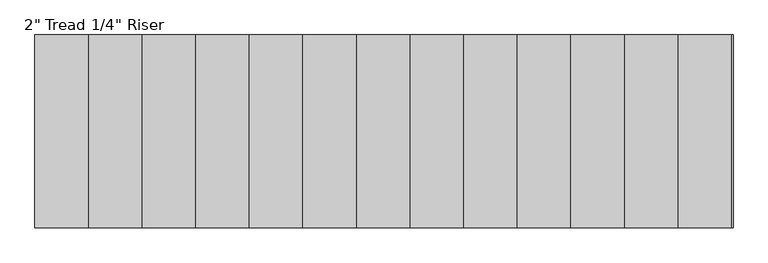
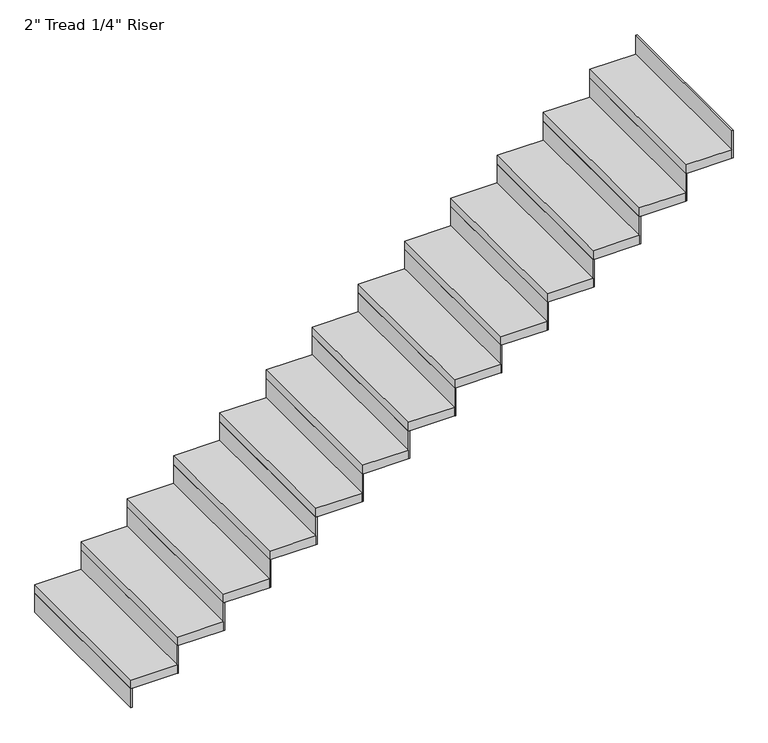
"""IFC4 building model written with IfcOpenShell, lengths in millimetres: stair flight geometry."""

from ifc_helpers import new_model, si_unit, frame, origin, origin_with_axes, place, context, project, spatial, polyline, outline, extrude, source, transform, mapped, element, save


def stair_flight_bc33b561(model_context):
    return source(origin(), model_context, "Body", "SweptSolid", [
        extrude(outline(polyline([(159992.4182615, -35451.4428514), (159986.0682615, -35451.4428514), (159986.0682615, -34537.0428514), (159992.4182615, -34537.0428514), (159992.4182615, -35451.4428514)])), origin_with_axes(), (0.0, 0.0, 1.0), 109.6210526),
        extrude(outline(polyline([(160240.0682615, -34537.0428514), (160240.0682615, -35451.4428514), (159986.0682615, -35451.4428514), (159986.0682615, -34537.0428514), (160240.0682615, -34537.0428514)])), frame((0.0, 0.0, 109.6210526), z_axis=(0.0, 0.0, 1.0), x_axis=(1.0, 0.0, 0.0)), (0.0, 0.0, 1.0), 50.8),
        extrude(outline(polyline([(160246.4182615, -35451.4428514), (160240.0682615, -35451.4428514), (160240.0682615, -34537.0428514), (160246.4182615, -34537.0428514), (160246.4182615, -35451.4428514)])), frame((0.0, 0.0, 109.6210526), z_axis=(0.0, 0.0, 1.0), x_axis=(1.0, 0.0, 0.0)), (0.0, 0.0, 1.0), 160.4210526),
        extrude(outline(polyline([(160494.0682615, -34537.0428514), (160494.0682615, -35451.4428514), (160240.0682615, -35451.4428514), (160240.0682615, -34537.0428514), (160494.0682615, -34537.0428514)])), frame((0.0, 0.0, 270.0421053), z_axis=(0.0, 0.0, 1.0), x_axis=(1.0, 0.0, 0.0)), (0.0, 0.0, 1.0), 50.8),
        extrude(outline(polyline([(160500.4182615, -35451.4428514), (160494.0682615, -35451.4428514), (160494.0682615, -34537.0428514), (160500.4182615, -34537.0428514), (160500.4182615, -35451.4428514)])), frame((0.0, 0.0, 270.0421053), z_axis=(0.0, 0.0, 1.0), x_axis=(1.0, 0.0, 0.0)), (0.0, 0.0, 1.0), 160.4210526),
        extrude(outline(polyline([(160748.0682615, -34537.0428514), (160748.0682615, -35451.4428514), (160494.0682615, -35451.4428514), (160494.0682615, -34537.0428514), (160748.0682615, -34537.0428514)])), frame((0.0, 0.0, 430.4631579), z_axis=(0.0, 0.0, 1.0), x_axis=(1.0, 0.0, 0.0)), (0.0, 0.0, 1.0), 50.8),
        extrude(outline(polyline([(160754.4182615, -35451.4428514), (160748.0682615, -35451.4428514), (160748.0682615, -34537.0428514), (160754.4182615, -34537.0428514), (160754.4182615, -35451.4428514)])), frame((0.0, 0.0, 430.4631579), z_axis=(0.0, 0.0, 1.0), x_axis=(1.0, 0.0, 0.0)), (0.0, 0.0, 1.0), 160.4210526),
        extrude(outline(polyline([(161002.0682615, -34537.0428514), (161002.0682615, -35451.4428514), (160748.0682615, -35451.4428514), (160748.0682615, -34537.0428514), (161002.0682615, -34537.0428514)])), frame((0.0, 0.0, 590.8842105), z_axis=(0.0, 0.0, 1.0), x_axis=(1.0, 0.0, 0.0)), (0.0, 0.0, 1.0), 50.8),
        extrude(outline(polyline([(161008.4182615, -35451.4428514), (161002.0682615, -35451.4428514), (161002.0682615, -34537.0428514), (161008.4182615, -34537.0428514), (161008.4182615, -35451.4428514)])), frame((0.0, 0.0, 590.8842105), z_axis=(0.0, 0.0, 1.0), x_axis=(1.0, 0.0, 0.0)), (0.0, 0.0, 1.0), 160.4210526),
        extrude(outline(polyline([(161256.0682615, -34537.0428514), (161256.0682615, -35451.4428514), (161002.0682615, -35451.4428514), (161002.0682615, -34537.0428514), (161256.0682615, -34537.0428514)])), frame((0.0, 0.0, 751.3052632), z_axis=(0.0, 0.0, 1.0), x_axis=(1.0, 0.0, 0.0)), (0.0, 0.0, 1.0), 50.8),
        extrude(outline(polyline([(161262.4182615, -35451.4428514), (161256.0682615, -35451.4428514), (161256.0682615, -34537.0428514), (161262.4182615, -34537.0428514), (161262.4182615, -35451.4428514)])), frame((0.0, 0.0, 751.3052632), z_axis=(0.0, 0.0, 1.0), x_axis=(1.0, 0.0, 0.0)), (0.0, 0.0, 1.0), 160.4210526),
        extrude(outline(polyline([(161510.0682615, -34537.0428514), (161510.0682615, -35451.4428514), (161256.0682615, -35451.4428514), (161256.0682615, -34537.0428514), (161510.0682615, -34537.0428514)])), frame((0.0, 0.0, 911.7263158), z_axis=(0.0, 0.0, 1.0), x_axis=(1.0, 0.0, 0.0)), (0.0, 0.0, 1.0), 50.8),
        extrude(outline(polyline([(161516.4182615, -35451.4428514), (161510.0682615, -35451.4428514), (161510.0682615, -34537.0428514), (161516.4182615, -34537.0428514), (161516.4182615, -35451.4428514)])), frame((0.0, 0.0, 911.7263158), z_axis=(0.0, 0.0, 1.0), x_axis=(1.0, 0.0, 0.0)), (0.0, 0.0, 1.0), 160.4210526),
        extrude(outline(polyline([(161764.0682615, -34537.0428514), (161764.0682615, -35451.4428514), (161510.0682615, -35451.4428514), (161510.0682615, -34537.0428514), (161764.0682615, -34537.0428514)])), frame((0.0, 0.0, 1072.1473684), z_axis=(0.0, 0.0, 1.0), x_axis=(1.0, 0.0, 0.0)), (0.0, 0.0, 1.0), 50.8),
        extrude(outline(polyline([(161770.4182615, -35451.4428514), (161764.0682615, -35451.4428514), (161764.0682615, -34537.0428514), (161770.4182615, -34537.0428514), (161770.4182615, -35451.4428514)])), frame((0.0, 0.0, 1072.1473684), z_axis=(0.0, 0.0, 1.0), x_axis=(1.0, 0.0, 0.0)), (0.0, 0.0, 1.0), 160.4210526),
        extrude(outline(polyline([(162018.0682615, -34537.0428514), (162018.0682615, -35451.4428514), (161764.0682615, -35451.4428514), (161764.0682615, -34537.0428514), (162018.0682615, -34537.0428514)])), frame((0.0, 0.0, 1232.5684211), z_axis=(0.0, 0.0, 1.0), x_axis=(1.0, 0.0, 0.0)), (0.0, 0.0, 1.0), 50.8),
        extrude(outline(polyline([(162024.4182615, -35451.4428514), (162018.0682615, -35451.4428514), (162018.0682615, -34537.0428514), (162024.4182615, -34537.0428514), (162024.4182615, -35451.4428514)])), frame((0.0, 0.0, 1232.5684211), z_axis=(0.0, 0.0, 1.0), x_axis=(1.0, 0.0, 0.0)), (0.0, 0.0, 1.0), 160.4210526),
        extrude(outline(polyline([(162272.0682615, -34537.0428514), (162272.0682615, -35451.4428514), (162018.0682615, -35451.4428514), (162018.0682615, -34537.0428514), (162272.0682615, -34537.0428514)])), frame((0.0, 0.0, 1392.9894737), z_axis=(0.0, 0.0, 1.0), x_axis=(1.0, 0.0, 0.0)), (0.0, 0.0, 1.0), 50.8),
        extrude(outline(polyline([(162278.4182615, -35451.4428514), (162272.0682615, -35451.4428514), (162272.0682615, -34537.0428514), (162278.4182615, -34537.0428514), (162278.4182615, -35451.4428514)])), frame((0.0, 0.0, 1392.9894737), z_axis=(0.0, 0.0, 1.0), x_axis=(1.0, 0.0, 0.0)), (0.0, 0.0, 1.0), 160.4210526),
        extrude(outline(polyline([(162526.0682615, -34537.0428514), (162526.0682615, -35451.4428514), (162272.0682615, -35451.4428514), (162272.0682615, -34537.0428514), (162526.0682615, -34537.0428514)])), frame((0.0, 0.0, 1553.4105263), z_axis=(0.0, 0.0, 1.0), x_axis=(1.0, 0.0, 0.0)), (0.0, 0.0, 1.0), 50.8),
        extrude(outline(polyline([(162532.4182615, -35451.4428514), (162526.0682615, -35451.4428514), (162526.0682615, -34537.0428514), (162532.4182615, -34537.0428514), (162532.4182615, -35451.4428514)])), frame((0.0, 0.0, 1553.4105263), z_axis=(0.0, 0.0, 1.0), x_axis=(1.0, 0.0, 0.0)), (0.0, 0.0, 1.0), 160.4210526),
        extrude(outline(polyline([(162780.0682615, -34537.0428514), (162780.0682615, -35451.4428514), (162526.0682615, -35451.4428514), (162526.0682615, -34537.0428514), (162780.0682615, -34537.0428514)])), frame((0.0, 0.0, 1713.8315789), z_axis=(0.0, 0.0, 1.0), x_axis=(1.0, 0.0, 0.0)), (0.0, 0.0, 1.0), 50.8),
        extrude(outline(polyline([(162786.4182615, -35451.4428514), (162780.0682615, -35451.4428514), (162780.0682615, -34537.0428514), (162786.4182615, -34537.0428514), (162786.4182615, -35451.4428514)])), frame((0.0, 0.0, 1713.8315789), z_axis=(0.0, 0.0, 1.0), x_axis=(1.0, 0.0, 0.0)), (0.0, 0.0, 1.0), 160.4210526),
        extrude(outline(polyline([(163034.0682615, -34537.0428514), (163034.0682615, -35451.4428514), (162780.0682615, -35451.4428514), (162780.0682615, -34537.0428514), (163034.0682615, -34537.0428514)])), frame((0.0, 0.0, 1874.2526316), z_axis=(0.0, 0.0, 1.0), x_axis=(1.0, 0.0, 0.0)), (0.0, 0.0, 1.0), 50.8),
        extrude(outline(polyline([(163040.4182615, -35451.4428514), (163034.0682615, -35451.4428514), (163034.0682615, -34537.0428514), (163040.4182615, -34537.0428514), (163040.4182615, -35451.4428514)])), frame((0.0, 0.0, 1874.2526316), z_axis=(0.0, 0.0, 1.0), x_axis=(1.0, 0.0, 0.0)), (0.0, 0.0, 1.0), 160.4210526),
        extrude(outline(polyline([(163294.4182615, -35451.4428514), (163288.0682615, -35451.4428514), (163288.0682615, -34537.0428514), (163294.4182615, -34537.0428514), (163294.4182615, -35451.4428514)])), frame((0.0, 0.0, 2034.6736842), z_axis=(0.0, 0.0, 1.0), x_axis=(1.0, 0.0, 0.0)), (0.0, 0.0, 1.0), 160.4210526),
        extrude(outline(polyline([(163288.0682615, -34537.0428514), (163288.0682615, -35451.4428514), (163034.0682615, -35451.4428514), (163034.0682615, -34537.0428514), (163288.0682615, -34537.0428514)])), frame((0.0, 0.0, 2034.6736842), z_axis=(0.0, 0.0, 1.0), x_axis=(1.0, 0.0, 0.0)), (0.0, 0.0, 1.0), 50.8),
    ])


if __name__ == "__main__":
    model = new_model("IFC4")
    model_context = context("Model", 3, world=origin())
    ifc_project = project(units=[si_unit("LENGTHUNIT", "METRE", prefix="MILLI")], contexts=[model_context])
    site = spatial("IfcSite", under=ifc_project)
    building = spatial("IfcBuilding", under=site)
    placement = place(None, origin())
    stair_flight_shape = stair_flight_bc33b561(model_context)
    element("IfcStairFlight", 1, ObjectType="2\" Tread 1/4\" Riser", at=placement, inside=building, context=model_context, shape_type="MappedRepresentation", body=[
        mapped(stair_flight_shape, transform((0.0, 0.0, 0.0), x_axis=(1.0, 0.0, 0.0), y_axis=(0.0, 1.0, 0.0), z_axis=(0.0, 0.0, 1.0))),
    ])
    save(model, "model.ifc")
